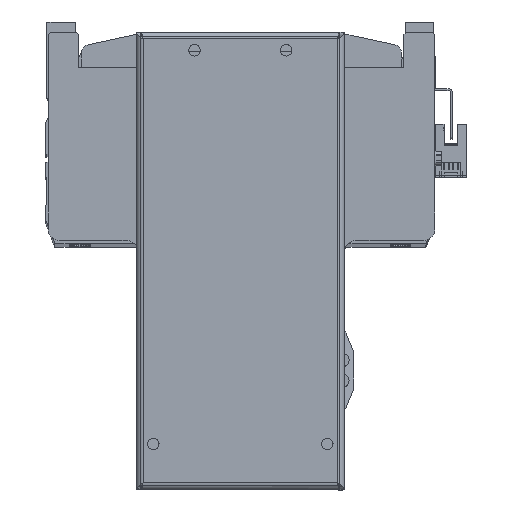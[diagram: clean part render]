
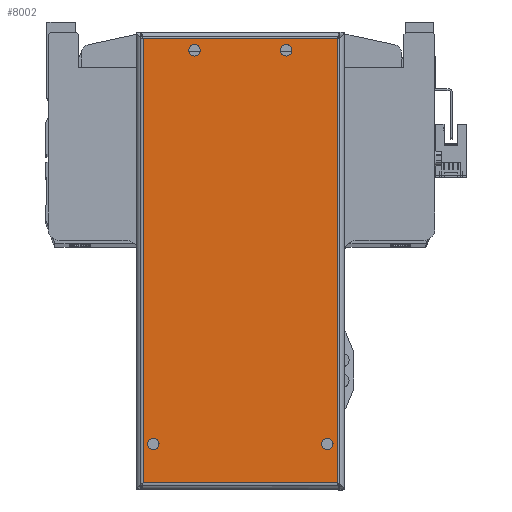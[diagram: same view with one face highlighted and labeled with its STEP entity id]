
A CAD part, top view. The second image highlights one B-rep face of the part: STEP entity #8002.
In plain terms, the highlighted planar face has unit normal (0, 0, 1) as drawn and (0, 0, -1) by its records, which use the part's own axes.
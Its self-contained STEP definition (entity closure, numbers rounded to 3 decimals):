
#164 = EDGE_CURVE ( 'NONE', #8848, #2944, #22643, .T. ) ;
#307 = VERTEX_POINT ( 'NONE', #10036 ) ;
#690 = CARTESIAN_POINT ( 'NONE',  ( 3421.522, 122.912, -59. ) ) ;
#1067 = ORIENTED_EDGE ( 'NONE', *, *, #13723, .F. ) ;
#1412 = EDGE_CURVE ( 'NONE', #30762, #13334, #3187, .T. ) ;
#1417 = DIRECTION ( 'NONE',  ( -1., 0., 0. ) ) ;
#1519 = CARTESIAN_POINT ( 'NONE',  ( 3361.022, -49.088, -59. ) ) ;
#1837 = DIRECTION ( 'NONE',  ( -1., 0., 0. ) ) ;
#2765 = AXIS2_PLACEMENT_3D ( 'NONE', #15505, #7998, #18298 ) ;
#2916 = VECTOR ( 'NONE', #33221, 1000. ) ;
#2944 = VERTEX_POINT ( 'NONE', #13578 ) ;
#3008 = EDGE_LOOP ( 'NONE', ( #19415, #20661, #4375, #27495 ) ) ;
#3106 = VERTEX_POINT ( 'NONE', #24899 ) ;
#3187 = CIRCLE ( 'NONE', #22712, 2.5 ) ;
#3554 = EDGE_LOOP ( 'NONE', ( #1067, #25335 ) ) ;
#3925 = ORIENTED_EDGE ( 'NONE', *, *, #18975, .F. ) ;
#4204 = VERTEX_POINT ( 'NONE', #32998 ) ;
#4375 = ORIENTED_EDGE ( 'NONE', *, *, #164, .T. ) ;
#4990 = CIRCLE ( 'NONE', #2765, 2.5 ) ;
#5173 = CARTESIAN_POINT ( 'NONE',  ( 3399.022, 30.912, -59. ) ) ;
#5762 = EDGE_CURVE ( 'NONE', #7529, #8848, #29800, .T. ) ;
#6405 = VERTEX_POINT ( 'NONE', #31811 ) ;
#7420 = CARTESIAN_POINT ( 'NONE',  ( 3437.022, -49.088, -59. ) ) ;
#7505 = CIRCLE ( 'NONE', #9718, 2.5 ) ;
#7529 = VERTEX_POINT ( 'NONE', #11725 ) ;
#7787 = VECTOR ( 'NONE', #26868, 1000. ) ;
#7804 = FACE_BOUND ( 'NONE', #3554, .T. ) ;
#7998 = DIRECTION ( 'NONE',  ( 0., 0., -1. ) ) ;
#8002 = ADVANCED_FACE ( 'NONE', ( #10412, #21276, #7804, #18459, #15311 ), #34105, .T. ) ;
#8236 = EDGE_CURVE ( 'NONE', #24128, #7529, #26434, .T. ) ;
#8530 = CARTESIAN_POINT ( 'NONE',  ( 3434.522, -49.088, -59. ) ) ;
#8848 = VERTEX_POINT ( 'NONE', #27048 ) ;
#9000 = AXIS2_PLACEMENT_3D ( 'NONE', #23106, #25700, #17858 ) ;
#9196 = EDGE_LOOP ( 'NONE', ( #3925, #26490 ) ) ;
#9718 = AXIS2_PLACEMENT_3D ( 'NONE', #17842, #27772, #1417 ) ;
#10036 = CARTESIAN_POINT ( 'NONE',  ( 3376.522, 122.912, -59. ) ) ;
#10412 = FACE_BOUND ( 'NONE', #9196, .T. ) ;
#10427 = DIRECTION ( 'NONE',  ( 0., 0., -1. ) ) ;
#11113 = EDGE_CURVE ( 'NONE', #3106, #307, #4990, .T. ) ;
#11389 = ORIENTED_EDGE ( 'NONE', *, *, #17384, .F. ) ;
#11725 = CARTESIAN_POINT ( 'NONE',  ( 3441.522, -66.088, -59. ) ) ;
#11963 = DIRECTION ( 'NONE',  ( 0., 0., -1. ) ) ;
#12375 = ORIENTED_EDGE ( 'NONE', *, *, #28283, .F. ) ;
#12836 = DIRECTION ( 'NONE',  ( 0., -1., 0. ) ) ;
#13245 = AXIS2_PLACEMENT_3D ( 'NONE', #17782, #10427, #21110 ) ;
#13334 = VERTEX_POINT ( 'NONE', #27866 ) ;
#13429 = CARTESIAN_POINT ( 'NONE',  ( 3355.875, 127.912, -59. ) ) ;
#13578 = CARTESIAN_POINT ( 'NONE',  ( 3356.522, 127.912, -59. ) ) ;
#13723 = EDGE_CURVE ( 'NONE', #18476, #4204, #16805, .T. ) ;
#13816 = CIRCLE ( 'NONE', #13245, 2.5 ) ;
#14138 = CARTESIAN_POINT ( 'NONE',  ( 3442.168, -66.088, -59. ) ) ;
#14229 = EDGE_CURVE ( 'NONE', #2944, #24128, #16231, .T. ) ;
#14335 = CIRCLE ( 'NONE', #17672, 2.5 ) ;
#14561 = VECTOR ( 'NONE', #12836, 1000. ) ;
#15311 = FACE_OUTER_BOUND ( 'NONE', #3008, .T. ) ;
#15505 = CARTESIAN_POINT ( 'NONE',  ( 3379.022, 122.912, -59. ) ) ;
#15848 = DIRECTION ( 'NONE',  ( 0., 0., -1. ) ) ;
#16231 = LINE ( 'NONE', #13429, #18297 ) ;
#16805 = CIRCLE ( 'NONE', #9000, 2.5 ) ;
#17198 = VERTEX_POINT ( 'NONE', #690 ) ;
#17384 = EDGE_CURVE ( 'NONE', #13334, #30762, #13816, .T. ) ;
#17672 = AXIS2_PLACEMENT_3D ( 'NONE', #7420, #28165, #1837 ) ;
#17782 = CARTESIAN_POINT ( 'NONE',  ( 3361.022, -49.088, -59. ) ) ;
#17842 = CARTESIAN_POINT ( 'NONE',  ( 3419.022, 122.912, -59. ) ) ;
#17858 = DIRECTION ( 'NONE',  ( -1., 0., 0. ) ) ;
#17898 = DIRECTION ( 'NONE',  ( -1., 0., 0. ) ) ;
#18297 = VECTOR ( 'NONE', #31885, 1000. ) ;
#18298 = DIRECTION ( 'NONE',  ( -1., 0., 0. ) ) ;
#18459 = FACE_BOUND ( 'NONE', #34131, .T. ) ;
#18476 = VERTEX_POINT ( 'NONE', #8530 ) ;
#18975 = EDGE_CURVE ( 'NONE', #6405, #17198, #32815, .T. ) ;
#19415 = ORIENTED_EDGE ( 'NONE', *, *, #8236, .T. ) ;
#20661 = ORIENTED_EDGE ( 'NONE', *, *, #5762, .T. ) ;
#20705 = CARTESIAN_POINT ( 'NONE',  ( 3441.522, 128.559, -59. ) ) ;
#21110 = DIRECTION ( 'NONE',  ( -1., 0., 0. ) ) ;
#21276 = FACE_BOUND ( 'NONE', #27737, .T. ) ;
#22617 = DIRECTION ( 'NONE',  ( -1., 0., 0. ) ) ;
#22643 = LINE ( 'NONE', #27348, #2916 ) ;
#22712 = AXIS2_PLACEMENT_3D ( 'NONE', #1519, #22855, #33436 ) ;
#22855 = DIRECTION ( 'NONE',  ( 0., 0., -1. ) ) ;
#23106 = CARTESIAN_POINT ( 'NONE',  ( 3437.022, -49.088, -59. ) ) ;
#23779 = AXIS2_PLACEMENT_3D ( 'NONE', #32683, #33715, #17898 ) ;
#24128 = VERTEX_POINT ( 'NONE', #26701 ) ;
#24899 = CARTESIAN_POINT ( 'NONE',  ( 3381.522, 122.912, -59. ) ) ;
#25274 = ORIENTED_EDGE ( 'NONE', *, *, #11113, .F. ) ;
#25335 = ORIENTED_EDGE ( 'NONE', *, *, #30290, .F. ) ;
#25671 = AXIS2_PLACEMENT_3D ( 'NONE', #5173, #15848, #26465 ) ;
#25700 = DIRECTION ( 'NONE',  ( 0., 0., -1. ) ) ;
#26434 = LINE ( 'NONE', #20705, #14561 ) ;
#26465 = DIRECTION ( 'NONE',  ( -1., 0., 0. ) ) ;
#26490 = ORIENTED_EDGE ( 'NONE', *, *, #27028, .F. ) ;
#26701 = CARTESIAN_POINT ( 'NONE',  ( 3441.522, 127.912, -59. ) ) ;
#26868 = DIRECTION ( 'NONE',  ( -1., 0., 0. ) ) ;
#27028 = EDGE_CURVE ( 'NONE', #17198, #6405, #7505, .T. ) ;
#27048 = CARTESIAN_POINT ( 'NONE',  ( 3356.522, -66.088, -59. ) ) ;
#27348 = CARTESIAN_POINT ( 'NONE',  ( 3356.522, -66.734, -59. ) ) ;
#27495 = ORIENTED_EDGE ( 'NONE', *, *, #14229, .T. ) ;
#27737 = EDGE_LOOP ( 'NONE', ( #12375, #25274 ) ) ;
#27772 = DIRECTION ( 'NONE',  ( 0., 0., -1. ) ) ;
#27866 = CARTESIAN_POINT ( 'NONE',  ( 3363.522, -49.088, -59. ) ) ;
#28165 = DIRECTION ( 'NONE',  ( 0., 0., -1. ) ) ;
#28195 = CIRCLE ( 'NONE', #23779, 2.5 ) ;
#28283 = EDGE_CURVE ( 'NONE', #307, #3106, #28195, .T. ) ;
#29800 = LINE ( 'NONE', #14138, #7787 ) ;
#30290 = EDGE_CURVE ( 'NONE', #4204, #18476, #14335, .T. ) ;
#30762 = VERTEX_POINT ( 'NONE', #34506 ) ;
#30908 = ORIENTED_EDGE ( 'NONE', *, *, #1412, .F. ) ;
#30916 = CARTESIAN_POINT ( 'NONE',  ( 3419.022, 122.912, -59. ) ) ;
#31811 = CARTESIAN_POINT ( 'NONE',  ( 3416.522, 122.912, -59. ) ) ;
#31885 = DIRECTION ( 'NONE',  ( 1., 0., 0. ) ) ;
#32683 = CARTESIAN_POINT ( 'NONE',  ( 3379.022, 122.912, -59. ) ) ;
#32815 = CIRCLE ( 'NONE', #34461, 2.5 ) ;
#32998 = CARTESIAN_POINT ( 'NONE',  ( 3439.522, -49.088, -59. ) ) ;
#33221 = DIRECTION ( 'NONE',  ( 0., 1., 0. ) ) ;
#33436 = DIRECTION ( 'NONE',  ( -1., 0., 0. ) ) ;
#33715 = DIRECTION ( 'NONE',  ( 0., 0., -1. ) ) ;
#34105 = PLANE ( 'NONE',  #25671 ) ;
#34131 = EDGE_LOOP ( 'NONE', ( #30908, #11389 ) ) ;
#34461 = AXIS2_PLACEMENT_3D ( 'NONE', #30916, #11963, #22617 ) ;
#34506 = CARTESIAN_POINT ( 'NONE',  ( 3358.522, -49.088, -59. ) ) ;
